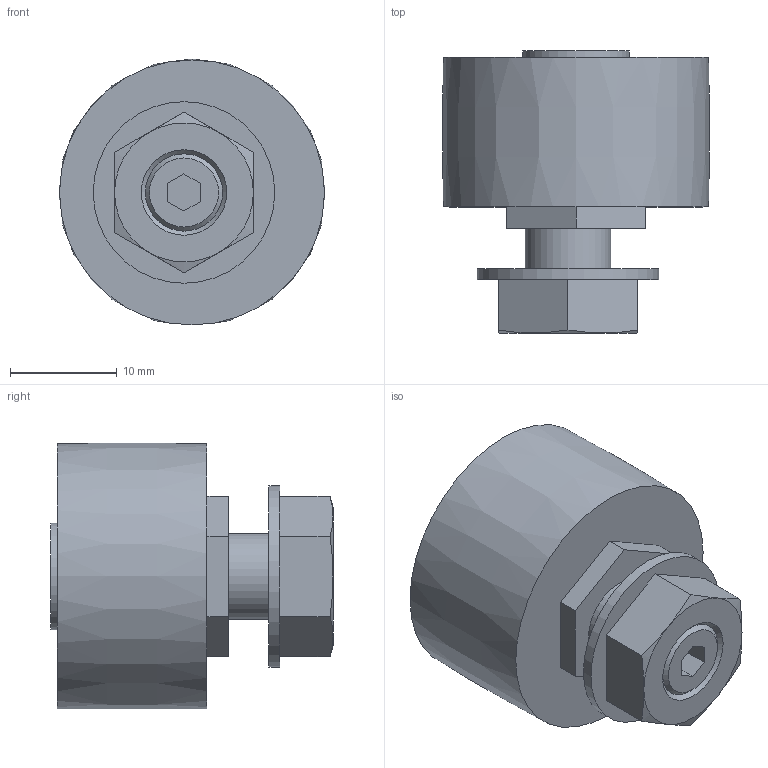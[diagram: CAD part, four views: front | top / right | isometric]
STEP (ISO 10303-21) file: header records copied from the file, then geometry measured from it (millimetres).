
FILE_DESCRIPTION( ( 'STEP AP203' ), '1' );
FILE_NAME( 'p:/temp/worker_111/temp/exporttempdir_1348_411_Si0mh/format_1/SR25E.stp', '2021-09-29T07:15:32', ( 'License CC BY-ND 4.0' ), ( 'CADENAS' ), ' ', 'PARTsolutions', ' ' );
FILE_SCHEMA( ( 'CONFIG_CONTROL_DESIGN' ) );
Length unit declared in the file: millimetre
Products named in the file (2): SR25E; _SR25E_
Assembly tree (1 placements, depth 2):
  SR25E
    _SR25E_
Bounding box: 24.98 x 26.4 x 24.89 mm (x, y, z)
Volume: 8279.4 mm3; surface area: 2954.5 mm2
Topology: 1 solids, 1 shells, 46 faces, 103 edges, 67 vertices
Faces by surface type: plane 34, cone 8, cylinder 3, bspline 1
Full cylindrical faces by diameter (mm): 8 x1, 10 x1, 17 x1
Entity records: 1334 total; most frequent: CARTESIAN_POINT 275, DIRECTION 194, ORIENTED_EDGE 190, EDGE_CURVE 95, LINE 66, VECTOR 66, VERTEX_POINT 65, AXIS2_PLACEMENT_3D 64
